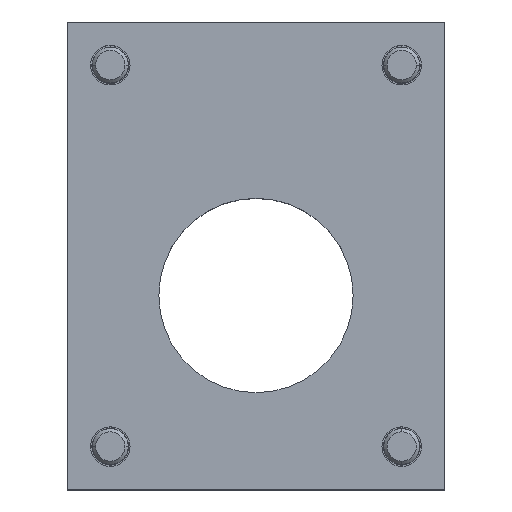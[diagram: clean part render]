
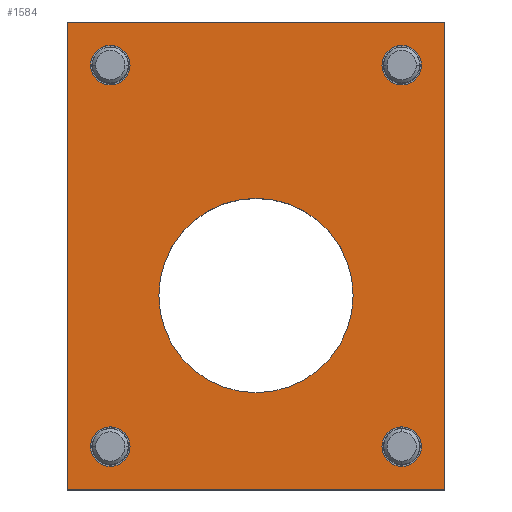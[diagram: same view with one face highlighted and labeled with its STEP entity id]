
A CAD part, top view. The second image highlights one B-rep face of the part: STEP entity #1584.
In plain terms, the highlighted planar face has unit normal (0, 0, 1).
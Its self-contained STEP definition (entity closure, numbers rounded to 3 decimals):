
#24 = DIRECTION ( 'NONE',  ( 0., 1., 0. ) ) ;
#27 = EDGE_CURVE ( 'NONE', #3460, #2487, #1136, .T. ) ;
#53 = EDGE_CURVE ( 'NONE', #2487, #3460, #314, .T. ) ;
#60 = VERTEX_POINT ( 'NONE', #1429 ) ;
#63 = DIRECTION ( 'NONE',  ( 0., 1., 0. ) ) ;
#76 = VERTEX_POINT ( 'NONE', #464 ) ;
#114 = ORIENTED_EDGE ( 'NONE', *, *, #3775, .F. ) ;
#155 = CARTESIAN_POINT ( 'NONE',  ( -52.5, -54., -32. ) ) ;
#200 = CARTESIAN_POINT ( 'NONE',  ( -40.5, -42., -32. ) ) ;
#209 = DIRECTION ( 'NONE',  ( 0., 1., 0. ) ) ;
#226 = LINE ( 'NONE', #155, #2172 ) ;
#232 = AXIS2_PLACEMENT_3D ( 'NONE', #1443, #2759, #4079 ) ;
#283 = VERTEX_POINT ( 'NONE', #3887 ) ;
#314 = CIRCLE ( 'NONE', #1473, 5.5 ) ;
#347 = FACE_BOUND ( 'NONE', #560, .T. ) ;
#374 = AXIS2_PLACEMENT_3D ( 'NONE', #2933, #1967, #1305 ) ;
#434 = VERTEX_POINT ( 'NONE', #447 ) ;
#447 = CARTESIAN_POINT ( 'NONE',  ( -40.5, 58.5, -32. ) ) ;
#452 = CARTESIAN_POINT ( 'NONE',  ( 0., 0., -32. ) ) ;
#455 = ORIENTED_EDGE ( 'NONE', *, *, #1004, .F. ) ;
#457 = ORIENTED_EDGE ( 'NONE', *, *, #3758, .T. ) ;
#464 = CARTESIAN_POINT ( 'NONE',  ( 52.5, 76., -32. ) ) ;
#478 = ORIENTED_EDGE ( 'NONE', *, *, #3629, .T. ) ;
#524 = CARTESIAN_POINT ( 'NONE',  ( -52.5, 76., -32. ) ) ;
#539 = VERTEX_POINT ( 'NONE', #3510 ) ;
#551 = CARTESIAN_POINT ( 'NONE',  ( 40.5, 69.5, -32. ) ) ;
#560 = EDGE_LOOP ( 'NONE', ( #1803, #816 ) ) ;
#567 = VERTEX_POINT ( 'NONE', #2866 ) ;
#591 = VERTEX_POINT ( 'NONE', #524 ) ;
#598 = CARTESIAN_POINT ( 'NONE',  ( -52.5, 76., -32. ) ) ;
#646 = DIRECTION ( 'NONE',  ( 0., 1., 0. ) ) ;
#667 = CARTESIAN_POINT ( 'NONE',  ( 0., 0., -32. ) ) ;
#693 = AXIS2_PLACEMENT_3D ( 'NONE', #1105, #2374, #1360 ) ;
#707 = CIRCLE ( 'NONE', #1800, 27. ) ;
#816 = ORIENTED_EDGE ( 'NONE', *, *, #3228, .T. ) ;
#855 = AXIS2_PLACEMENT_3D ( 'NONE', #2914, #2971, #1615 ) ;
#869 = CARTESIAN_POINT ( 'NONE',  ( -40.5, -47.5, -32. ) ) ;
#912 = ORIENTED_EDGE ( 'NONE', *, *, #53, .T. ) ;
#958 = DIRECTION ( 'NONE',  ( 0., 0., -1. ) ) ;
#975 = VERTEX_POINT ( 'NONE', #3378 ) ;
#1004 = EDGE_CURVE ( 'NONE', #591, #76, #2734, .T. ) ;
#1024 = FACE_BOUND ( 'NONE', #1423, .T. ) ;
#1045 = DIRECTION ( 'NONE',  ( 0., -1., 0. ) ) ;
#1094 = VERTEX_POINT ( 'NONE', #3472 ) ;
#1105 = CARTESIAN_POINT ( 'NONE',  ( -40.5, 64., -32. ) ) ;
#1131 = EDGE_CURVE ( 'NONE', #283, #567, #226, .T. ) ;
#1136 = CIRCLE ( 'NONE', #374, 5.5 ) ;
#1176 = ORIENTED_EDGE ( 'NONE', *, *, #1209, .T. ) ;
#1209 = EDGE_CURVE ( 'NONE', #1798, #1266, #2510, .T. ) ;
#1227 = DIRECTION ( 'NONE',  ( 0., 1., 0. ) ) ;
#1266 = VERTEX_POINT ( 'NONE', #3420 ) ;
#1305 = DIRECTION ( 'NONE',  ( 0., 1., 0. ) ) ;
#1360 = DIRECTION ( 'NONE',  ( 0., 1., 0. ) ) ;
#1362 = DIRECTION ( 'NONE',  ( 1., 0., 0. ) ) ;
#1370 = CARTESIAN_POINT ( 'NONE',  ( 0., 11., -32. ) ) ;
#1380 = ORIENTED_EDGE ( 'NONE', *, *, #27, .T. ) ;
#1388 = ORIENTED_EDGE ( 'NONE', *, *, #1775, .T. ) ;
#1423 = EDGE_LOOP ( 'NONE', ( #1380, #912 ) ) ;
#1429 = CARTESIAN_POINT ( 'NONE',  ( 40.5, -47.5, -32. ) ) ;
#1443 = CARTESIAN_POINT ( 'NONE',  ( -40.5, -42., -32. ) ) ;
#1473 = AXIS2_PLACEMENT_3D ( 'NONE', #2728, #2768, #63 ) ;
#1516 = DIRECTION ( 'NONE',  ( 0., 0., -1. ) ) ;
#1526 = EDGE_LOOP ( 'NONE', ( #455, #4108, #3711, #114 ) ) ;
#1529 = AXIS2_PLACEMENT_3D ( 'NONE', #452, #3789, #2079 ) ;
#1584 = ADVANCED_FACE ( 'NONE', ( #347, #3962, #2948, #2344, #1024, #1700 ), #3311, .T. ) ;
#1598 = VECTOR ( 'NONE', #3292, 1000. ) ;
#1599 = EDGE_LOOP ( 'NONE', ( #2357, #1176 ) ) ;
#1615 = DIRECTION ( 'NONE',  ( 0., 1., 0. ) ) ;
#1634 = AXIS2_PLACEMENT_3D ( 'NONE', #200, #1516, #1227 ) ;
#1684 = CIRCLE ( 'NONE', #3269, 5.5 ) ;
#1700 = FACE_OUTER_BOUND ( 'NONE', #1526, .T. ) ;
#1726 = CARTESIAN_POINT ( 'NONE',  ( 52.5, 76., -32. ) ) ;
#1747 = AXIS2_PLACEMENT_3D ( 'NONE', #1370, #2367, #2120 ) ;
#1775 = EDGE_CURVE ( 'NONE', #539, #434, #1684, .T. ) ;
#1798 = VERTEX_POINT ( 'NONE', #869 ) ;
#1800 = AXIS2_PLACEMENT_3D ( 'NONE', #667, #958, #646 ) ;
#1803 = ORIENTED_EDGE ( 'NONE', *, *, #2586, .T. ) ;
#1896 = EDGE_LOOP ( 'NONE', ( #478, #2547 ) ) ;
#1952 = CIRCLE ( 'NONE', #3530, 5.5 ) ;
#1967 = DIRECTION ( 'NONE',  ( 0., 0., -1. ) ) ;
#2079 = DIRECTION ( 'NONE',  ( 0., 1., 0. ) ) ;
#2120 = DIRECTION ( 'NONE',  ( 0., -1., 0. ) ) ;
#2172 = VECTOR ( 'NONE', #4176, 1000. ) ;
#2298 = CARTESIAN_POINT ( 'NONE',  ( -40.5, 64., -32. ) ) ;
#2344 = FACE_BOUND ( 'NONE', #1599, .T. ) ;
#2357 = ORIENTED_EDGE ( 'NONE', *, *, #3374, .T. ) ;
#2367 = DIRECTION ( 'NONE',  ( 0., 0., 1. ) ) ;
#2374 = DIRECTION ( 'NONE',  ( 0., 0., -1. ) ) ;
#2487 = VERTEX_POINT ( 'NONE', #3113 ) ;
#2510 = CIRCLE ( 'NONE', #1634, 5.5 ) ;
#2547 = ORIENTED_EDGE ( 'NONE', *, *, #3079, .T. ) ;
#2586 = EDGE_CURVE ( 'NONE', #1094, #3751, #3368, .T. ) ;
#2605 = LINE ( 'NONE', #598, #1598 ) ;
#2705 = CIRCLE ( 'NONE', #855, 5.5 ) ;
#2728 = CARTESIAN_POINT ( 'NONE',  ( 40.5, 64., -32. ) ) ;
#2734 = LINE ( 'NONE', #1726, #3462 ) ;
#2759 = DIRECTION ( 'NONE',  ( 0., 0., -1. ) ) ;
#2768 = DIRECTION ( 'NONE',  ( 0., 0., -1. ) ) ;
#2842 = DIRECTION ( 'NONE',  ( 0., 0., -1. ) ) ;
#2866 = CARTESIAN_POINT ( 'NONE',  ( -52.5, -54., -32. ) ) ;
#2908 = CIRCLE ( 'NONE', #232, 5.5 ) ;
#2914 = CARTESIAN_POINT ( 'NONE',  ( 40.5, -42., -32. ) ) ;
#2933 = CARTESIAN_POINT ( 'NONE',  ( 40.5, 64., -32. ) ) ;
#2948 = FACE_BOUND ( 'NONE', #1896, .T. ) ;
#2971 = DIRECTION ( 'NONE',  ( 0., 0., -1. ) ) ;
#3028 = CARTESIAN_POINT ( 'NONE',  ( 0., -27., -32. ) ) ;
#3079 = EDGE_CURVE ( 'NONE', #60, #975, #1952, .T. ) ;
#3087 = CIRCLE ( 'NONE', #693, 5.5 ) ;
#3113 = CARTESIAN_POINT ( 'NONE',  ( 40.5, 58.5, -32. ) ) ;
#3228 = EDGE_CURVE ( 'NONE', #3751, #1094, #707, .T. ) ;
#3269 = AXIS2_PLACEMENT_3D ( 'NONE', #2298, #2842, #24 ) ;
#3292 = DIRECTION ( 'NONE',  ( 0., 1., 0. ) ) ;
#3311 = PLANE ( 'NONE',  #1747 ) ;
#3352 = LINE ( 'NONE', #3981, #4211 ) ;
#3368 = CIRCLE ( 'NONE', #1529, 27. ) ;
#3374 = EDGE_CURVE ( 'NONE', #1266, #1798, #2908, .T. ) ;
#3378 = CARTESIAN_POINT ( 'NONE',  ( 40.5, -36.5, -32. ) ) ;
#3420 = CARTESIAN_POINT ( 'NONE',  ( -40.5, -36.5, -32. ) ) ;
#3460 = VERTEX_POINT ( 'NONE', #551 ) ;
#3462 = VECTOR ( 'NONE', #1362, 1000. ) ;
#3472 = CARTESIAN_POINT ( 'NONE',  ( 0., 27., -32. ) ) ;
#3480 = DIRECTION ( 'NONE',  ( 0., 0., -1. ) ) ;
#3510 = CARTESIAN_POINT ( 'NONE',  ( -40.5, 69.5, -32. ) ) ;
#3530 = AXIS2_PLACEMENT_3D ( 'NONE', #4130, #3480, #209 ) ;
#3629 = EDGE_CURVE ( 'NONE', #975, #60, #2705, .T. ) ;
#3692 = EDGE_LOOP ( 'NONE', ( #1388, #457 ) ) ;
#3711 = ORIENTED_EDGE ( 'NONE', *, *, #1131, .F. ) ;
#3751 = VERTEX_POINT ( 'NONE', #3028 ) ;
#3758 = EDGE_CURVE ( 'NONE', #434, #539, #3087, .T. ) ;
#3775 = EDGE_CURVE ( 'NONE', #76, #283, #3352, .T. ) ;
#3789 = DIRECTION ( 'NONE',  ( 0., 0., -1. ) ) ;
#3887 = CARTESIAN_POINT ( 'NONE',  ( 52.5, -54., -32. ) ) ;
#3962 = FACE_BOUND ( 'NONE', #3692, .T. ) ;
#3965 = EDGE_CURVE ( 'NONE', #567, #591, #2605, .T. ) ;
#3981 = CARTESIAN_POINT ( 'NONE',  ( 52.5, -54., -32. ) ) ;
#4079 = DIRECTION ( 'NONE',  ( 0., 1., 0. ) ) ;
#4108 = ORIENTED_EDGE ( 'NONE', *, *, #3965, .F. ) ;
#4130 = CARTESIAN_POINT ( 'NONE',  ( 40.5, -42., -32. ) ) ;
#4176 = DIRECTION ( 'NONE',  ( -1., 0., 0. ) ) ;
#4211 = VECTOR ( 'NONE', #1045, 1000. ) ;
